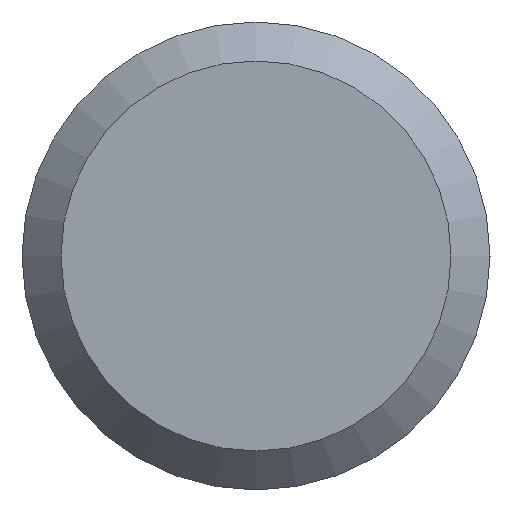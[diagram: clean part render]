
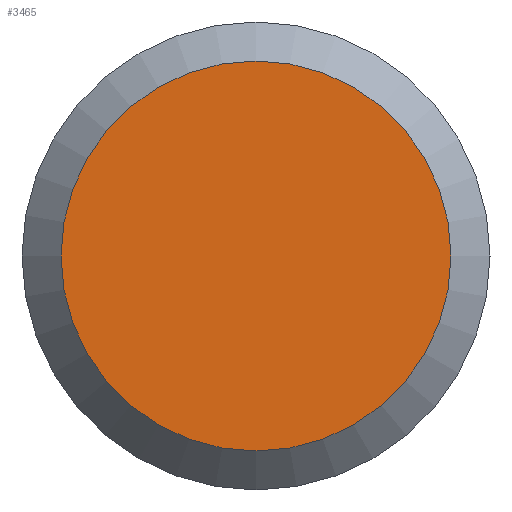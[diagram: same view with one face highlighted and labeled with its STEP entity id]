
A CAD part, left-side view. The second image highlights one B-rep face of the part: STEP entity #3465.
In plain terms, the highlighted planar face has unit normal (-1, 0, 0).
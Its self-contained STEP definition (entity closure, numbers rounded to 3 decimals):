
#1250=PLANE('',#3194);
#1303=ORIENTED_EDGE('',*,*,#1765,.T.);
#1531=CIRCLE('',#3193,5.);
#1648=VERTEX_POINT('',#2841);
#1765=EDGE_CURVE('',#1648,#1648,#1531,.T.);
#1888=EDGE_LOOP('',(#1303));
#2122=FACE_BOUND('',#1888,.T.);
#2367=DIRECTION('',(-1.,0.,0.));
#2368=DIRECTION('',(0.,-5.,0.));
#2369=DIRECTION('',(-1.,0.,0.));
#2370=DIRECTION('',(0.,1.,0.));
#2841=CARTESIAN_POINT('',(54.422,276.125,0.));
#2842=CARTESIAN_POINT('',(54.422,281.125,0.));
#2843=CARTESIAN_POINT('',(54.422,281.125,0.));
#3193=AXIS2_PLACEMENT_3D('',#2842,#2367,#2368);
#3194=AXIS2_PLACEMENT_3D('',#2843,#2369,#2370);
#3465=ADVANCED_FACE('',(#2122),#1250,.T.);
